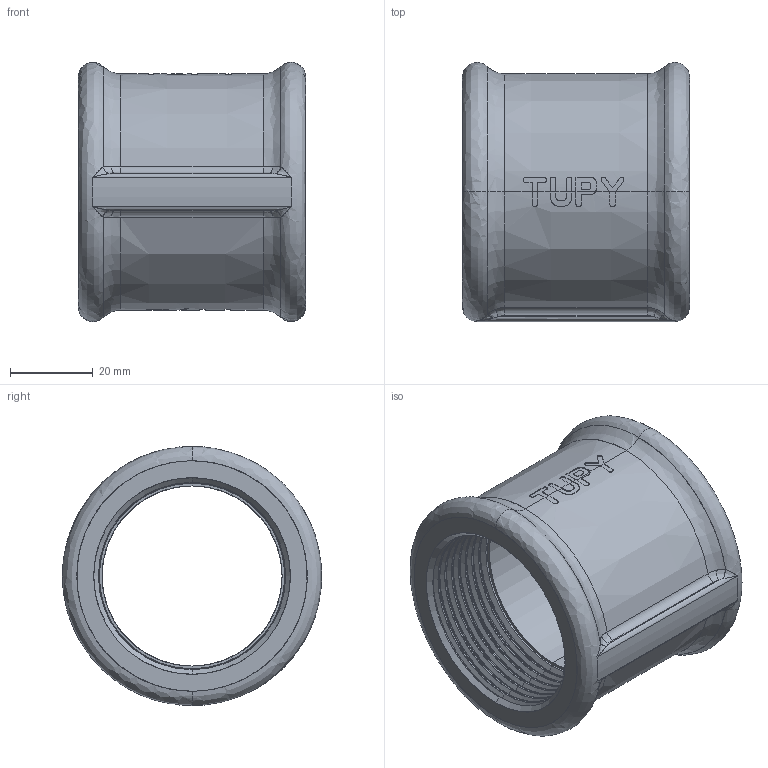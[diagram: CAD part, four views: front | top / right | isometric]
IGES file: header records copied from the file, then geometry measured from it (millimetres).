
Start section: SolidWorks IGES file using analytic representation for surfaces
Global section: file name: C:\Users\Joel Rosa\Desktop\Tubulação\12-36-OK\12-36-009.IGS; native system: SolidWorks 2011; preprocessor: SolidWorks 2011; author: Joel Rosa; date: 131216.202929; units: millimetre
Bounding box: 55 x 62.77 x 62.79 mm (x, y, z)
Surface area: 24615.2 mm2 (no closed solid volume)
Topology: 0 solids, 0 shells, 305 faces, 2819 edges, 2817 vertices
Faces by surface type: bspline 208, revolution 97
